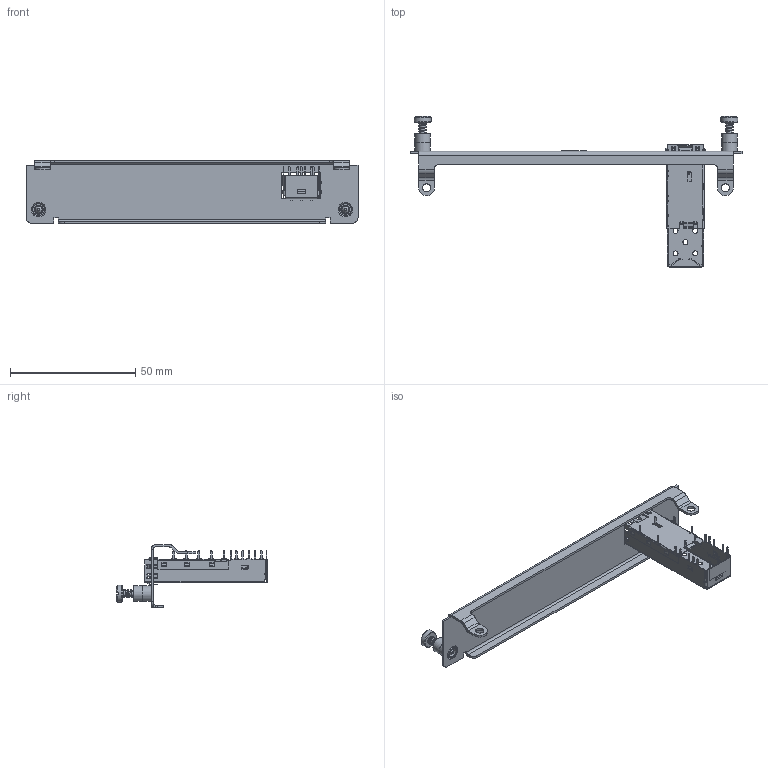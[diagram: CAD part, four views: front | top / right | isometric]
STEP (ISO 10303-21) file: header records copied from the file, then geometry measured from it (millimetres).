
FILE_DESCRIPTION(/* description */ (''),/* implementation_level */ '2;1');
FILE_NAME(/* name */ 'C:\Workspace\Workspace\103 - Highland\Engineering\95792\P7-FLEX.stp',/* time_stamp */ '2023-04-14T13:46:12-05:00',/* author */ ('jasonz'),/* organization */ (''),/* preprocessor_version */ 'ST-DEVELOPER v18.1',/* originating_system */ 'Autodesk Inventor 2022',/* authorisation */ '');
FILE_SCHEMA (('AUTOMOTIVE_DESIGN { 1 0 10303 214 3 1 1 }'));
Products named in the file (6): P7-FLEX; 9579230115; 9579200029; 44090; 9579200094; Amphenol U77A1113X001
Assembly tree (6 placements, depth 3):
  P7-FLEX
    9579230115
      9579200029
      44090  x2
    9579200094
    Amphenol U77A1113X001
Bounding box: 132.59 x 60.38 x 25.02 mm (x, y, z)
Volume: 4290 mm3; surface area: 14585.8 mm2
Topology: 23 solids, 1226 shells, 1637 faces, 7399 edges, 7011 vertices
Faces by surface type: plane 927, cylinder 520, bspline 152, cone 36, torus 2
Full cylindrical faces by diameter (mm): 1.905 x2, 2.413 x2, 2.824 x2, 2.921 x2, 3.251 x2, 3.632 x2, 3.658 x2, 3.912 x2, 4.648 x2, 4.826 x2, 6.223 x4, 6.833 x2
Entity records: 85718 total; most frequent: CARTESIAN_POINT 26133, DIRECTION 11612, ORIENTED_EDGE 8119, EDGE_CURVE 7220, VERTEX_POINT 6907, LINE 4748, VECTOR 4748, AXIS2_PLACEMENT_3D 3432
